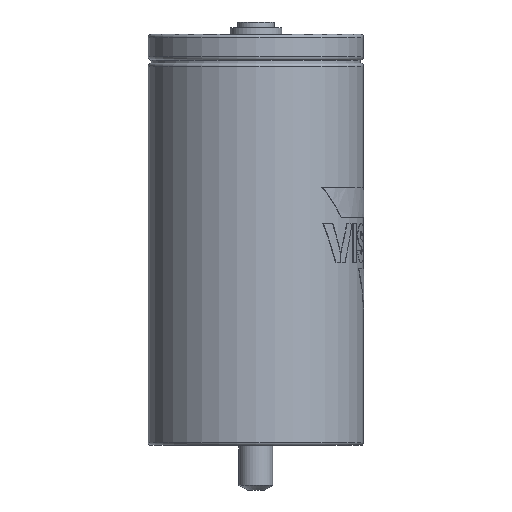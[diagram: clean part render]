
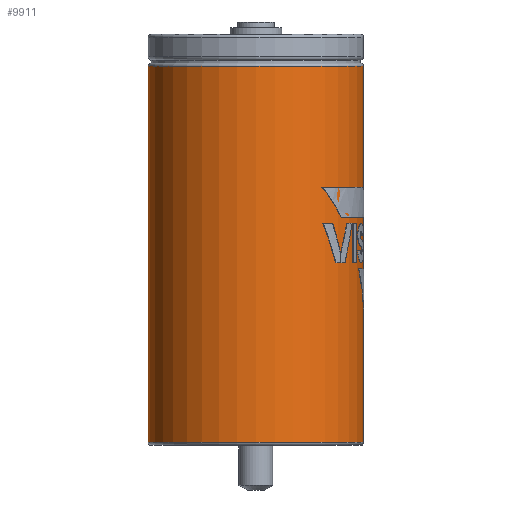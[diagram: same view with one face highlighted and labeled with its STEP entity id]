
A CAD part, left-side view. The second image highlights one B-rep face of the part: STEP entity #9911.
In plain terms, the highlighted cylindrical face has radius 38.2 mm (diameter 76.4 mm), a full revolution.
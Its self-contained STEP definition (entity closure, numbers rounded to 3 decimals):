
#9844 = TOROIDAL_SURFACE('',#9845,37.1,1.1);
#9845 = AXIS2_PLACEMENT_3D('',#9846,#9847,#9848);
#9846 = CARTESIAN_POINT('',(0.,0.,-143.6));
#9847 = DIRECTION('',(0.,0.,1.));
#9848 = DIRECTION('',(1.,0.,0.));
#9861 = VERTEX_POINT('',#9862);
#9862 = CARTESIAN_POINT('',(38.2,0.,-143.6));
#9884 = EDGE_CURVE('',#9861,#9861,#9885,.T.);
#9885 = SURFACE_CURVE('',#9886,(#9891,#9898),.PCURVE_S1.);
#9886 = CIRCLE('',#9887,38.2);
#9887 = AXIS2_PLACEMENT_3D('',#9888,#9889,#9890);
#9888 = CARTESIAN_POINT('',(0.,0.,-143.6));
#9889 = DIRECTION('',(-0.,0.,1.));
#9890 = DIRECTION('',(1.,0.,0.));
#9891 = PCURVE('',#9844,#9892);
#9892 = DEFINITIONAL_REPRESENTATION('',(#9893),#9897);
#9893 = LINE('',#9894,#9895);
#9894 = CARTESIAN_POINT('',(0.,6.283));
#9895 = VECTOR('',#9896,1.);
#9896 = DIRECTION('',(1.,0.));
#9897 = ( GEOMETRIC_REPRESENTATION_CONTEXT(2) 
PARAMETRIC_REPRESENTATION_CONTEXT() REPRESENTATION_CONTEXT('2D SPACE',''
  ) );
#9898 = PCURVE('',#9899,#9904);
#9899 = CYLINDRICAL_SURFACE('',#9900,38.2);
#9900 = AXIS2_PLACEMENT_3D('',#9901,#9902,#9903);
#9901 = CARTESIAN_POINT('',(0.,0.,-143.6));
#9902 = DIRECTION('',(0.,0.,1.));
#9903 = DIRECTION('',(1.,0.,0.));
#9904 = DEFINITIONAL_REPRESENTATION('',(#9905),#9909);
#9905 = LINE('',#9906,#9907);
#9906 = CARTESIAN_POINT('',(0.,0.));
#9907 = VECTOR('',#9908,1.);
#9908 = DIRECTION('',(1.,0.));
#9909 = ( GEOMETRIC_REPRESENTATION_CONTEXT(2) 
PARAMETRIC_REPRESENTATION_CONTEXT() REPRESENTATION_CONTEXT('2D SPACE',''
  ) );
#9911 = ADVANCED_FACE('',(#9912),#9899,.T.);
#9912 = FACE_BOUND('',#9913,.T.);
#9913 = EDGE_LOOP('',(#9914,#9915,#9938,#9965));
#9914 = ORIENTED_EDGE('',*,*,#9884,.T.);
#9915 = ORIENTED_EDGE('',*,*,#9916,.T.);
#9916 = EDGE_CURVE('',#9861,#9917,#9919,.T.);
#9917 = VERTEX_POINT('',#9918);
#9918 = CARTESIAN_POINT('',(38.2,0.,-10.2));
#9919 = SEAM_CURVE('',#9920,(#9924,#9931),.PCURVE_S1.);
#9920 = LINE('',#9921,#9922);
#9921 = CARTESIAN_POINT('',(38.2,0.,-143.6));
#9922 = VECTOR('',#9923,1.);
#9923 = DIRECTION('',(0.,0.,1.));
#9924 = PCURVE('',#9899,#9925);
#9925 = DEFINITIONAL_REPRESENTATION('',(#9926),#9930);
#9926 = LINE('',#9927,#9928);
#9927 = CARTESIAN_POINT('',(0.,0.));
#9928 = VECTOR('',#9929,1.);
#9929 = DIRECTION('',(0.,1.));
#9930 = ( GEOMETRIC_REPRESENTATION_CONTEXT(2) 
PARAMETRIC_REPRESENTATION_CONTEXT() REPRESENTATION_CONTEXT('2D SPACE',''
  ) );
#9931 = PCURVE('',#9899,#9932);
#9932 = DEFINITIONAL_REPRESENTATION('',(#9933),#9937);
#9933 = LINE('',#9934,#9935);
#9934 = CARTESIAN_POINT('',(6.283,0.));
#9935 = VECTOR('',#9936,1.);
#9936 = DIRECTION('',(0.,1.));
#9937 = ( GEOMETRIC_REPRESENTATION_CONTEXT(2) 
PARAMETRIC_REPRESENTATION_CONTEXT() REPRESENTATION_CONTEXT('2D SPACE',''
  ) );
#9938 = ORIENTED_EDGE('',*,*,#9939,.F.);
#9939 = EDGE_CURVE('',#9917,#9917,#9940,.T.);
#9940 = SURFACE_CURVE('',#9941,(#9946,#9953),.PCURVE_S1.);
#9941 = CIRCLE('',#9942,38.2);
#9942 = AXIS2_PLACEMENT_3D('',#9943,#9944,#9945);
#9943 = CARTESIAN_POINT('',(0.,0.,-10.2));
#9944 = DIRECTION('',(-0.,0.,1.));
#9945 = DIRECTION('',(1.,0.,0.));
#9946 = PCURVE('',#9899,#9947);
#9947 = DEFINITIONAL_REPRESENTATION('',(#9948),#9952);
#9948 = LINE('',#9949,#9950);
#9949 = CARTESIAN_POINT('',(0.,133.4));
#9950 = VECTOR('',#9951,1.);
#9951 = DIRECTION('',(1.,0.));
#9952 = ( GEOMETRIC_REPRESENTATION_CONTEXT(2) 
PARAMETRIC_REPRESENTATION_CONTEXT() REPRESENTATION_CONTEXT('2D SPACE',''
  ) );
#9953 = PCURVE('',#9954,#9959);
#9954 = TOROIDAL_SURFACE('',#9955,37.1,1.1);
#9955 = AXIS2_PLACEMENT_3D('',#9956,#9957,#9958);
#9956 = CARTESIAN_POINT('',(0.,0.,-10.2));
#9957 = DIRECTION('',(0.,0.,1.));
#9958 = DIRECTION('',(1.,0.,0.));
#9959 = DEFINITIONAL_REPRESENTATION('',(#9960),#9964);
#9960 = LINE('',#9961,#9962);
#9961 = CARTESIAN_POINT('',(0.,0.));
#9962 = VECTOR('',#9963,1.);
#9963 = DIRECTION('',(1.,0.));
#9964 = ( GEOMETRIC_REPRESENTATION_CONTEXT(2) 
PARAMETRIC_REPRESENTATION_CONTEXT() REPRESENTATION_CONTEXT('2D SPACE',''
  ) );
#9965 = ORIENTED_EDGE('',*,*,#9916,.F.);
